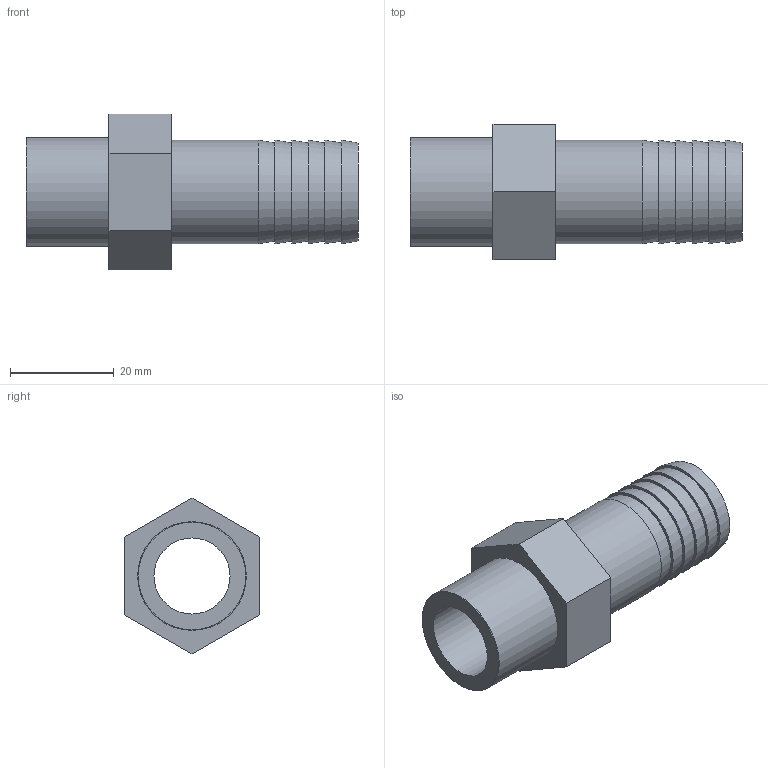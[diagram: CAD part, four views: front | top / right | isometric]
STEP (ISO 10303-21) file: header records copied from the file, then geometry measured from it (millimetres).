
FILE_DESCRIPTION(/* description */ ('PLASSON THREADED HOSE NOZZLE 1/2"-20'),/* implementation_level */ '2;1');
FILE_NAME(/* name */ 'C:\Dropbox\KIMPROJECTS-Inventor\99-16-3568-Processing\PVC Catalog 2017\053601\053601020005.ipt.stp',/* time_stamp */ '2017-12-07T16:03:21+02:00',/* author */ ('KIM'),/* organization */ (''),/* preprocessor_version */ 'ST-DEVELOPER v15.6',/* originating_system */ 'Autodesk Inventor 2015',/* authorisation */ '');
FILE_SCHEMA (('AUTOMOTIVE_DESIGN { 1 0 10303 214 3 1 1 }'));
Length unit declared in the file: millimetre
Products named in the file (1): 053601020005
Bounding box: 64 x 26 x 30.02 mm (x, y, z)
Volume: 12703.5 mm3; surface area: 8296.7 mm2
Topology: 1 solids, 1 shells, 25 faces, 46 edges, 30 vertices
Faces by surface type: plane 15, cone 6, cylinder 3, torus 1
Full cylindrical faces by diameter (mm): 14.668 x1, 20 x1, 20.955 x1
Entity records: 600 total; most frequent: DIRECTION 106, CARTESIAN_POINT 92, ORIENTED_EDGE 72, EDGE_LOOP 44, AXIS2_PLACEMENT_3D 44, EDGE_CURVE 36, VERTEX_POINT 30, FACE_OUTER_BOUND 25
